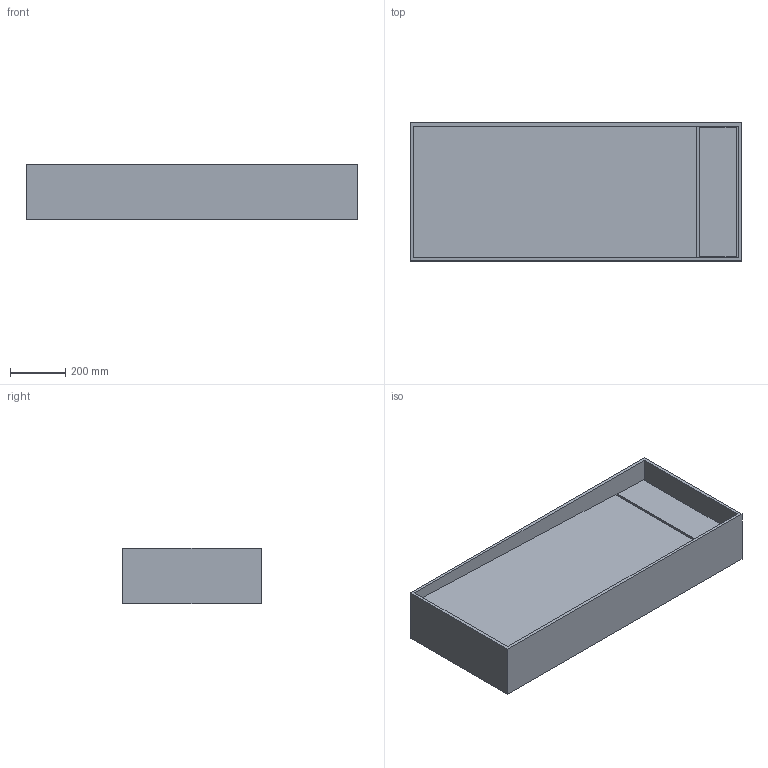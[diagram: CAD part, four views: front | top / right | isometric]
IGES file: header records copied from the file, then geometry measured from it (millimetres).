
Global section: file name: D:\Desktop\GIOVANNI\SCHEDE PRODOTTO\PIANI LAVABO\PARK PLACE\3D\MOMA DESIGN_PIANI LAVABO_PARK PLACE 5.igs; native system: Rhinoceros ( Jan 17 2018 ); preprocessor: Trout Lake IGES 012 Jan 17 2018; date: 230606.154705; units: millimetre
Bounding box: 1200 x 500 x 200 mm (x, y, z)
Surface area: 2260816.4 mm2 (no closed solid volume)
Topology: 0 solids, 0 shells, 19 faces, 84 edges, 84 vertices
Faces by surface type: bspline 19
